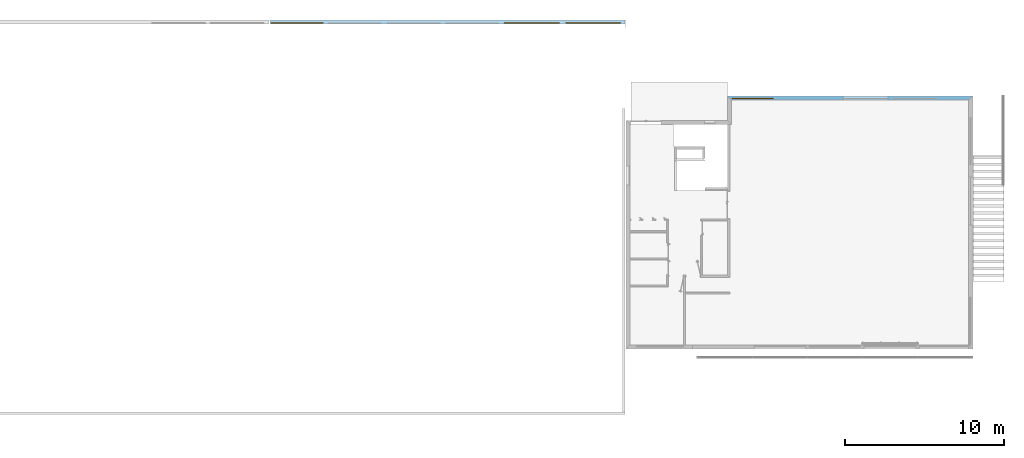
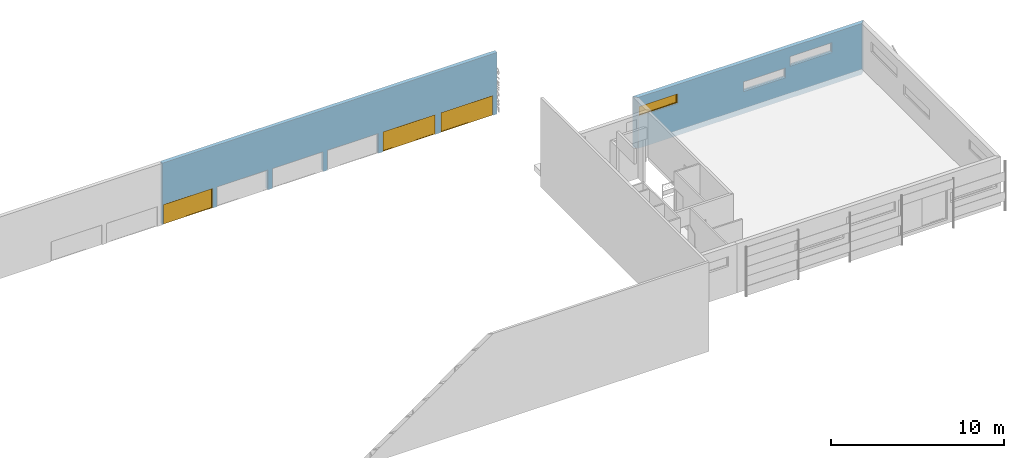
# One storey, part 11 of 14: 4 windows, 9 openings, plus 2 elements that do not belong to this part.
"""IFC2X3 building model written with IfcOpenShell, lengths in metres."""

from ifc_helpers import new_model, entity, si_unit, converted_unit, money_unit, direction, frame, origin_with_axes, place, context, subcontext, project, spatial, polyline, outline, extrude, open_shell, faceted_brep, surface_model, material, layer, layer_set, layer_usage, type_object, element, fill, save


model = new_model("IFC2X3")

# Units and contexts
model_context = context("Model", 3, precision=1e-05, world=origin_with_axes(), true_north=direction((0.0, 1.0)))
body_context = subcontext(model_context, "Body", "Model", "MODEL_VIEW")
ifc_project = project(units=[si_unit("LENGTHUNIT", "METRE"), si_unit("AREAUNIT", "SQUARE_METRE"), si_unit("VOLUMEUNIT", "CUBIC_METRE"), converted_unit("PLANEANGLEUNIT", "DEGREE", entity("IfcPlaneAngleMeasure", 0.0174532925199), si_unit("PLANEANGLEUNIT", "RADIAN"), dimensions=[0, 0, 0, 0, 0, 0, 0]), si_unit("SOLIDANGLEUNIT", "STERADIAN"), money_unit("EUR"), converted_unit("TIMEUNIT", "Year", entity("IfcTimeMeasure", 31556926.0), si_unit("TIMEUNIT", "SECOND"), dimensions=[0, 0, 0, 0, 0, 0, 0]), si_unit("MASSUNIT", "GRAM"), si_unit("THERMODYNAMICTEMPERATUREUNIT", "DEGREE_CELSIUS"), si_unit("LUMINOUSINTENSITYUNIT", "LUMEN")], contexts=[model_context])

# Site, building, storey
site_placement = place(None, origin_with_axes())
site = spatial("IfcSite", under=ifc_project, at=site_placement, Name="Site", CompositionType="ELEMENT")
building_placement = place(site_placement, origin_with_axes())
building = spatial("IfcBuilding", under=site, at=building_placement, Name="Bâtiment", CompositionType="ELEMENT")
storey_placement = place(building_placement, frame((0.0, 0.0, 3.0), z_axis=(0.0, 0.0, 1.0), x_axis=(1.0, 0.0, 0.0)))
storey = spatial("IfcBuildingStorey", under=building, at=storey_placement, Name="NIVEAU HAUT ENTRÉE", CompositionType="ELEMENT", Elevation=3.0)

# Wall, openings, window
ifc_material_1 = material(Name="Hachure solide* 2593434267")
ifc_layer_1 = layer(ifc_material_1, 0.16, ventilated="UNKNOWN")
ifc_material_2 = material(Name="Empty Fill 290923149")
ifc_layer_2 = layer(ifc_material_2, 0.08, ventilated="UNKNOWN")
ifc_material_3 = material(Name="Hachure solide* 3992800808")
ifc_layer_3 = layer(ifc_material_3, 0.02, ventilated="UNKNOWN")
ifc_layer_set_1 = layer_set([ifc_layer_1, ifc_layer_2, ifc_layer_3], Name="•GYMN 16+10 (1)")
ifc_layer_usage_1 = layer_usage(ifc_layer_set_1, "AXIS2", "POSITIVE", 0.0)
wall_type_1 = type_object("IfcWallType", Name="•GYMN 16+10 260", PredefinedType="NOTDEFINED")
wall_1_placement = place(storey_placement, frame((67.258457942, 21.758815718, -0.4), z_axis=(0.0, 0.0, 1.0), x_axis=(-1.0, 0.0, 0.0)))
wall_1 = element("IfcWallStandardCase", 1, at=wall_1_placement, inside=storey, type_object=wall_type_1, material=ifc_layer_usage_1, Name="Mur-002", context=body_context, shape_type="SweptSolid", body=[
    extrude(outline(polyline([(0.0, 0.0), (15.42, 0.0), (15.16, 0.26), (0.26, 0.26), (0.0, 0.0)])), origin_with_axes(), (0.0, 0.0, 1.0), 3.6),
])
opening_1_placement = place(wall_1_placement, frame((13.82, 0.0, 2.25), z_axis=(0.0, 0.0, 1.0), x_axis=(1.0, 0.0, 0.0)))
opening_1 = element("IfcOpeningElement", 2, at=opening_1_placement, cuts=wall_1, Name="Fen-027", context=body_context, shape_type="SweptSolid", body=[
    extrude(outline(polyline([(1.3, 0.7), (-1.3, 0.7), (-1.3, 0.0), (1.3, 0.0), (1.3, 0.7)])), frame((0.0, 0.18, 0.0), z_axis=(0.0, -1.0, 0.0), x_axis=(1.0, 0.0, 0.0)), (0.0, 0.0, 1.0), 0.44),
    extrude(outline(polyline([(1.3, 0.0), (-1.3, 0.0), (-1.3, -0.7), (1.3, -0.7), (1.3, 0.0)])), frame((0.0, 0.18, 0.0), z_axis=(0.0, 1.0, 0.0), x_axis=(1.0, 0.0, 0.0)), (0.0, 0.0, 1.0), 0.34),
])
opening_2_placement = place(wall_1_placement, frame((6.74191669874, 0.0, 1.55), z_axis=(0.0, 0.0, 1.0), x_axis=(1.0, 0.0, 0.0)))
element("IfcOpeningElement", 3, at=opening_2_placement, cuts=wall_1, Name="Fen-027", context=body_context, shape_type="SweptSolid", body=[
    extrude(outline(polyline([(1.4, 0.7), (-1.4, 0.7), (-1.4, 0.0), (1.4, 0.0), (1.4, 0.7)])), frame((0.0, 0.18, 0.0), z_axis=(0.0, -1.0, 0.0), x_axis=(1.0, 0.0, 0.0)), (0.0, 0.0, 1.0), 0.44),
    extrude(outline(polyline([(1.4, 0.0), (-1.4, 0.0), (-1.4, -0.7), (1.4, -0.7), (1.4, 0.0)])), frame((0.0, 0.18, 0.0), z_axis=(0.0, 1.0, 0.0), x_axis=(1.0, 0.0, 0.0)), (0.0, 0.0, 1.0), 0.34),
])
opening_3_placement = place(wall_1_placement, frame((3.63565172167, 0.0, 2.25), z_axis=(0.0, 0.0, 1.0), x_axis=(1.0, 0.0, 0.0)))
element("IfcOpeningElement", 4, at=opening_3_placement, cuts=wall_1, Name="Fen-027", context=body_context, shape_type="SweptSolid", body=[
    extrude(outline(polyline([(1.4, 0.7), (-1.4, 0.7), (-1.4, 0.0), (1.4, 0.0), (1.4, 0.7)])), frame((0.0, 0.18, 0.0), z_axis=(0.0, -1.0, 0.0), x_axis=(1.0, 0.0, 0.0)), (0.0, 0.0, 1.0), 0.44),
    extrude(outline(polyline([(1.4, 0.0), (-1.4, 0.0), (-1.4, -0.7), (1.4, -0.7), (1.4, 0.0)])), frame((0.0, 0.18, 0.0), z_axis=(0.0, 1.0, 0.0), x_axis=(1.0, 0.0, 0.0)), (0.0, 0.0, 1.0), 0.34),
])
ifc_material_4 = material(Name="Sans Trame")
window_style = type_object("IfcWindowStyle", Name="Fen bascule 1 10", ConstructionType="NOTDEFINED", OperationType="SINGLE_PANEL", ParameterTakesPrecedence=False, Sizeable=False)
window_1_placement = place(opening_1_placement, frame((-1.3, 0.0, 0.0), z_axis=(0.0, 0.0, 1.0), x_axis=(1.0, 0.0, 0.0)))
window_1 = element("IfcWindow", 5, at=window_1_placement, inside=storey, type_object=window_style, material=ifc_material_4, Name="Fen-027", OverallHeight=0.7, OverallWidth=2.6, context=body_context, shape_type="SurfaceModel", body=[
    faceted_brep([(2.58, 0.14, 0.66), (2.6, 0.14, 0.66), (2.6, 0.18, 0.66), (2.56, 0.18, 0.66), (2.56, 0.16, 0.66), (2.58, 0.16, 0.66), (2.58, 0.14, 0.04), (2.6, 0.14, 0.04), (2.6, 0.18, 0.04), (2.56, 0.18, 0.04), (2.56, 0.16, 0.04), (2.58, 0.16, 0.04)], [[[0, 1, 2, 3, 4, 5]], [[6, 7, 1, 0]], [[1, 7, 8, 2]], [[2, 8, 9, 3]], [[4, 3, 9, 10]], [[10, 11, 5, 4]], [[5, 11, 6, 0]], [[11, 10, 9, 8, 7, 6]]]),
    faceted_brep([(0.04, 0.16, 0.66), (0.04, 0.18, 0.66), (0.0, 0.18, 0.66), (0.0, 0.14, 0.66), (0.02, 0.14, 0.66), (0.02, 0.16, 0.66), (0.04, 0.16, 0.04), (0.04, 0.18, 0.04), (0.0, 0.18, 0.04), (0.0, 0.14, 0.04), (0.02, 0.14, 0.04), (0.02, 0.16, 0.04)], [[[0, 1, 2, 3, 4, 5]], [[6, 7, 1, 0]], [[8, 2, 1, 7]], [[9, 3, 2, 8]], [[4, 3, 9, 10]], [[10, 11, 5, 4]], [[5, 11, 6, 0]], [[11, 10, 9, 8, 7, 6]]]),
    faceted_brep([(2.58, 0.14, 0.66), (2.6, 0.14, 0.66), (2.6, 0.14, 0.7), (0.0, 0.14, 0.7), (0.0, 0.14, 0.66), (0.02, 0.14, 0.66), (0.02, 0.14, 0.68), (2.58, 0.14, 0.68), (2.58, 0.16, 0.66), (2.56, 0.16, 0.66), (2.56, 0.18, 0.66), (2.6, 0.18, 0.66), (2.6, 0.18, 0.7), (0.0, 0.18, 0.7), (0.0, 0.18, 0.66), (0.02, 0.16, 0.66), (0.04, 0.18, 0.66), (0.04, 0.16, 0.66), (0.02, 0.16, 0.68), (2.58, 0.16, 0.68)], [[[0, 1, 2, 3, 4, 5, 6, 7]], [[8, 9, 10, 11, 1, 0]], [[2, 1, 11, 12]], [[3, 2, 12, 13]], [[4, 3, 13, 14]], [[15, 5, 4, 14, 16, 17]], [[5, 15, 18, 6]], [[6, 18, 19, 7]], [[7, 19, 8, 0]], [[17, 9, 8, 19, 18, 15]], [[17, 16, 10, 9]], [[14, 13, 12, 11, 10, 16]]]),
    faceted_brep([(0.04, 0.16, 0.04), (0.04, 0.18, 0.04), (0.0, 0.18, 0.04), (0.0, 0.14, 0.04), (0.02, 0.14, 0.04), (0.02, 0.16, 0.04), (2.56, 0.16, 0.04), (2.56, 0.18, 0.04), (2.6, 0.18, 0.04), (2.6, 0.18, 0.0), (0.0, 0.18, 0.0), (0.0, 0.14, 0.0), (2.58, 0.14, 0.02), (0.02, 0.14, 0.02), (2.6, 0.14, 0.0), (2.6, 0.14, 0.04), (2.58, 0.14, 0.04), (0.02, 0.16, 0.02), (2.58, 0.16, 0.02), (2.58, 0.16, 0.04)], [[[0, 1, 2, 3, 4, 5]], [[6, 7, 1, 0]], [[8, 9, 10, 2, 1, 7]], [[11, 3, 2, 10]], [[12, 13, 4, 3, 11, 14, 15, 16]], [[13, 17, 5, 4]], [[5, 17, 18, 19, 6, 0]], [[19, 16, 15, 8, 7, 6]], [[15, 14, 9, 8]], [[14, 11, 10, 9]], [[12, 18, 17, 13]], [[19, 18, 12, 16]]]),
    faceted_brep([(0.06, 0.16, 0.06), (0.06, 0.16, 0.64), (0.06, 0.12, 0.64), (0.06, 0.12, 0.06), (0.02, 0.16, 0.06), (0.02, 0.16, 0.64), (0.02, 0.12, 0.64), (0.02, 0.12, 0.06)], [[[0, 1, 2, 3]], [[0, 4, 5, 1]], [[1, 5, 6, 2]], [[3, 2, 6, 7]], [[4, 0, 3, 7]], [[5, 4, 7, 6]]]),
    faceted_brep([(2.58, 0.16, 0.06), (2.58, 0.16, 0.64), (2.58, 0.12, 0.64), (2.58, 0.12, 0.06), (2.54, 0.16, 0.06), (2.54, 0.16, 0.64), (2.54, 0.12, 0.64), (2.54, 0.12, 0.06)], [[[0, 1, 2, 3]], [[0, 4, 5, 1]], [[1, 5, 6, 2]], [[3, 2, 6, 7]], [[4, 0, 3, 7]], [[5, 4, 7, 6]]]),
    faceted_brep([(2.58, 0.16, 0.02), (2.58, 0.16, 0.06), (2.58, 0.12, 0.06), (2.58, 0.12, 0.02), (0.02, 0.16, 0.02), (0.02, 0.16, 0.06), (0.06, 0.16, 0.06), (2.54, 0.16, 0.06), (2.54, 0.12, 0.06), (0.06, 0.12, 0.06), (0.02, 0.12, 0.06), (0.02, 0.12, 0.02)], [[[0, 1, 2, 3]], [[0, 4, 5, 6, 7, 1]], [[1, 7, 8, 2]], [[3, 2, 8, 9, 10, 11]], [[4, 0, 3, 11]], [[5, 4, 11, 10]], [[6, 5, 10, 9]], [[7, 6, 9, 8]]]),
    faceted_brep([(0.02, 0.16, 0.68), (0.02, 0.16, 0.64), (0.02, 0.12, 0.64), (0.02, 0.12, 0.68), (2.58, 0.16, 0.68), (2.58, 0.16, 0.64), (2.54, 0.16, 0.64), (0.06, 0.16, 0.64), (0.06, 0.12, 0.64), (2.54, 0.12, 0.64), (2.58, 0.12, 0.64), (2.58, 0.12, 0.68)], [[[0, 1, 2, 3]], [[0, 4, 5, 6, 7, 1]], [[1, 7, 8, 2]], [[3, 2, 8, 9, 10, 11]], [[4, 0, 3, 11]], [[5, 4, 11, 10]], [[6, 5, 10, 9]], [[7, 6, 9, 8]]]),
    surface_model("IfcShellBasedSurfaceModel", [(0.06, 0.15, 0.06), (0.06, 0.15, 0.64), (2.54, 0.15, 0.64), (2.54, 0.15, 0.06)], [open_shell([[[0, 1, 2, 3]]])]),
    surface_model("IfcShellBasedSurfaceModel", [(0.06, 0.13, 0.06), (2.54, 0.13, 0.06), (2.54, 0.13, 0.64), (0.06, 0.13, 0.64)], [open_shell([[[0, 1, 2, 3]]])]),
])
fill(opening_1, window_1)

# Wall, openings, windows
ifc_material_5 = material(Name="Hachure solide* 1842511997")
ifc_layer_4 = layer(ifc_material_5, 0.1, ventilated="UNKNOWN")
ifc_material_6 = material(Name="Isolation 347608549")
ifc_layer_5 = layer(ifc_material_6, 0.12, ventilated="UNKNOWN")
ifc_material_7 = material(Name="Hachure solide* 398427698")
ifc_layer_6 = layer(ifc_material_7, 0.02, ventilated="UNKNOWN")
ifc_layer_set_2 = layer_set([ifc_layer_4, ifc_layer_5, ifc_layer_6], Name="•GYMN PANNEAU 1 0232896968")
ifc_layer_usage_2 = layer_usage(ifc_layer_set_2, "AXIS2", "POSITIVE", -0.24)
wall_type_2 = type_object("IfcWallType", Name="•GYMN PANNEAU 1 0232896968 240", PredefinedType="NOTDEFINED")
wall_2_placement = place(storey_placement, frame((23.108457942, 26.5291158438, 1.46), z_axis=(0.0, 0.0, 1.0), x_axis=(1.0, 0.0, 0.0)))
wall_2 = element("IfcWallStandardCase", 6, at=wall_2_placement, inside=storey, type_object=wall_type_2, material=ifc_layer_usage_2, Name="Mur-003", context=body_context, shape_type="SweptSolid", body=[
    extrude(outline(polyline([(0.0, -0.24), (22.31, -0.24), (22.31, 0.0), (0.0, 0.0), (0.0, -0.24)])), origin_with_axes(), (0.0, 0.0, 1.0), 4.35),
])
opening_4_placement = place(wall_2_placement, frame((16.4434939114, 0.0, 0.0), z_axis=(0.0, 0.0, 1.0), x_axis=(1.0, 0.0, 0.0)))
opening_4 = element("IfcOpeningElement", 7, at=opening_4_placement, cuts=wall_2, Name="Fen-028", context=body_context, shape_type="SweptSolid", body=[
    extrude(outline(polyline([(1.75, 0.0), (-1.75, 0.0), (-1.75, -1.405702), (1.75, -1.405702), (1.75, 0.0)])), frame((0.0, -0.16, 0.0), z_axis=(0.0, 1.0, 0.0), x_axis=(1.0, 0.0, 0.0)), (0.0, 0.0, 1.0), 0.4),
    extrude(outline(polyline([(1.75, 1.405702), (-1.75, 1.405702), (-1.75, 0.0), (1.75, 0.0), (1.75, 1.405702)])), frame((0.0, -0.16, 0.0), z_axis=(0.0, -1.0, 0.0), x_axis=(1.0, 0.0, 0.0)), (0.0, 0.0, 1.0), 0.32),
])
opening_5_placement = place(wall_2_placement, frame((12.6934939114, 0.0, 0.0), z_axis=(0.0, 0.0, 1.0), x_axis=(1.0, 0.0, 0.0)))
element("IfcOpeningElement", 8, at=opening_5_placement, cuts=wall_2, Name="Fen-028", context=body_context, shape_type="SweptSolid", body=[
    extrude(outline(polyline([(1.7, 0.0), (-1.7, 0.0), (-1.7, -1.405702), (1.7, -1.405702), (1.7, 0.0)])), frame((0.0, -0.16, 0.0), z_axis=(0.0, 1.0, 0.0), x_axis=(1.0, 0.0, 0.0)), (0.0, 0.0, 1.0), 0.4),
    extrude(outline(polyline([(1.7, 1.405702), (-1.7, 1.405702), (-1.7, 0.0), (1.7, 0.0), (1.7, 1.405702)])), frame((0.0, -0.16, 0.0), z_axis=(0.0, -1.0, 0.0), x_axis=(1.0, 0.0, 0.0)), (0.0, 0.0, 1.0), 0.32),
])
opening_6_placement = place(wall_2_placement, frame((9.01682724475, 0.0, 0.0), z_axis=(0.0, 0.0, 1.0), x_axis=(1.0, 0.0, 0.0)))
element("IfcOpeningElement", 9, at=opening_6_placement, cuts=wall_2, Name="Fen-028", context=body_context, shape_type="SweptSolid", body=[
    extrude(outline(polyline([(1.7, 0.0), (-1.7, 0.0), (-1.7, -1.405702), (1.7, -1.405702), (1.7, 0.0)])), frame((0.0, -0.16, 0.0), z_axis=(0.0, 1.0, 0.0), x_axis=(1.0, 0.0, 0.0)), (0.0, 0.0, 1.0), 0.4),
    extrude(outline(polyline([(1.7, 1.405702), (-1.7, 1.405702), (-1.7, 0.0), (1.7, 0.0), (1.7, 1.405702)])), frame((0.0, -0.16, 0.0), z_axis=(0.0, -1.0, 0.0), x_axis=(1.0, 0.0, 0.0)), (0.0, 0.0, 1.0), 0.32),
])
opening_7_placement = place(wall_2_placement, frame((5.31682724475, 0.0, 0.0), z_axis=(0.0, 0.0, 1.0), x_axis=(1.0, 0.0, 0.0)))
element("IfcOpeningElement", 10, at=opening_7_placement, cuts=wall_2, Name="Fen-028", context=body_context, shape_type="SweptSolid", body=[
    extrude(outline(polyline([(1.7, 0.0), (-1.7, 0.0), (-1.7, -1.405702), (1.7, -1.405702), (1.7, 0.0)])), frame((0.0, -0.16, 0.0), z_axis=(0.0, 1.0, 0.0), x_axis=(1.0, 0.0, 0.0)), (0.0, 0.0, 1.0), 0.4),
    extrude(outline(polyline([(1.7, 1.405702), (-1.7, 1.405702), (-1.7, 0.0), (1.7, 0.0), (1.7, 1.405702)])), frame((0.0, -0.16, 0.0), z_axis=(0.0, -1.0, 0.0), x_axis=(1.0, 0.0, 0.0)), (0.0, 0.0, 1.0), 0.32),
])
opening_8_placement = place(wall_2_placement, frame((1.7, 0.0, 0.0), z_axis=(0.0, 0.0, 1.0), x_axis=(1.0, 0.0, 0.0)))
opening_8 = element("IfcOpeningElement", 11, at=opening_8_placement, cuts=wall_2, Name="Fen-028", context=body_context, shape_type="SweptSolid", body=[
    extrude(outline(polyline([(1.65, 0.0), (-1.65, 0.0), (-1.65, -1.405702), (1.65, -1.405702), (1.65, 0.0)])), frame((0.0, -0.16, 0.0), z_axis=(0.0, 1.0, 0.0), x_axis=(1.0, 0.0, 0.0)), (0.0, 0.0, 1.0), 0.4),
    extrude(outline(polyline([(1.65, 1.405702), (-1.65, 1.405702), (-1.65, 0.0), (1.65, 0.0), (1.65, 1.405702)])), frame((0.0, -0.16, 0.0), z_axis=(0.0, -1.0, 0.0), x_axis=(1.0, 0.0, 0.0)), (0.0, 0.0, 1.0), 0.32),
])
opening_9_placement = place(wall_2_placement, frame((20.3078718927, 0.0, 0.0), z_axis=(0.0, 0.0, 1.0), x_axis=(1.0, 0.0, 0.0)))
opening_9 = element("IfcOpeningElement", 12, at=opening_9_placement, cuts=wall_2, Name="Fen-028", context=body_context, shape_type="SweptSolid", body=[
    extrude(outline(polyline([(-1.737872, 0.0), (-1.737872, -1.405702), (1.737872, -1.405702), (1.737872, 0.0), (-1.737872, 0.0)])), frame((0.0, -0.16, 0.0), z_axis=(0.0, 1.0, 0.0), x_axis=(1.0, 0.0, 0.0)), (0.0, 0.0, 1.0), 0.4),
    extrude(outline(polyline([(-1.737872, 1.405702), (-1.737872, 0.0), (1.737872, 0.0), (1.737872, 1.405702), (-1.737872, 1.405702)])), frame((0.0, -0.16, 0.0), z_axis=(0.0, -1.0, 0.0), x_axis=(1.0, 0.0, 0.0)), (0.0, 0.0, 1.0), 0.32),
])
window_2_placement = place(opening_4_placement, frame((-1.75, 0.0, 0.0), z_axis=(0.0, 0.0, 1.0), x_axis=(1.0, 0.0, 0.0)))
window_2 = element("IfcWindow", 13, at=window_2_placement, inside=storey, type_object=window_style, material=ifc_material_4, Name="Fen-028", OverallHeight=1.4057, OverallWidth=3.5, context=body_context, shape_type="SurfaceModel", body=[
    faceted_brep([(3.48, -0.2, 1.365702), (3.5, -0.2, 1.365702), (3.5, -0.16, 1.365702), (3.46, -0.16, 1.365702), (3.46, -0.18, 1.365702), (3.48, -0.18, 1.365702), (3.48, -0.2, 0.039999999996), (3.5, -0.2, 0.039999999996), (3.5, -0.16, 0.039999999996), (3.46, -0.16, 0.039999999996), (3.46, -0.18, 0.039999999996), (3.48, -0.18, 0.039999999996)], [[[0, 1, 2, 3, 4, 5]], [[6, 7, 1, 0]], [[1, 7, 8, 2]], [[2, 8, 9, 3]], [[4, 3, 9, 10]], [[10, 11, 5, 4]], [[5, 11, 6, 0]], [[11, 10, 9, 8, 7, 6]]]),
    faceted_brep([(0.04, -0.18, 1.365702), (0.04, -0.16, 1.365702), (0.0, -0.16, 1.365702), (0.0, -0.2, 1.365702), (0.02, -0.2, 1.365702), (0.02, -0.18, 1.365702), (0.04, -0.18, 0.039999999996), (0.04, -0.16, 0.039999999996), (0.0, -0.16, 0.039999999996), (0.0, -0.2, 0.039999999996), (0.02, -0.2, 0.039999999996), (0.02, -0.18, 0.039999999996)], [[[0, 1, 2, 3, 4, 5]], [[6, 7, 1, 0]], [[8, 2, 1, 7]], [[9, 3, 2, 8]], [[4, 3, 9, 10]], [[10, 11, 5, 4]], [[5, 11, 6, 0]], [[11, 10, 9, 8, 7, 6]]]),
    faceted_brep([(3.48, -0.2, 1.365702), (3.5, -0.2, 1.365702), (3.5, -0.2, 1.405702), (0.0, -0.2, 1.405702), (0.0, -0.2, 1.365702), (0.02, -0.2, 1.365702), (0.02, -0.2, 1.385702), (3.48, -0.2, 1.385702), (3.48, -0.18, 1.365702), (3.46, -0.18, 1.365702), (3.46, -0.16, 1.365702), (3.5, -0.16, 1.365702), (3.5, -0.16, 1.405702), (0.0, -0.16, 1.405702), (0.0, -0.16, 1.365702), (0.02, -0.18, 1.365702), (0.04, -0.16, 1.365702), (0.04, -0.18, 1.365702), (0.02, -0.18, 1.385702), (3.48, -0.18, 1.385702)], [[[0, 1, 2, 3, 4, 5, 6, 7]], [[8, 9, 10, 11, 1, 0]], [[2, 1, 11, 12]], [[3, 2, 12, 13]], [[4, 3, 13, 14]], [[15, 5, 4, 14, 16, 17]], [[5, 15, 18, 6]], [[6, 18, 19, 7]], [[7, 19, 8, 0]], [[17, 9, 8, 19, 18, 15]], [[17, 16, 10, 9]], [[14, 13, 12, 11, 10, 16]]]),
    faceted_brep([(0.04, -0.18, 0.039999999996), (0.04, -0.16, 0.039999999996), (0.0, -0.16, 0.039999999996), (0.0, -0.2, 0.039999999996), (0.02, -0.2, 0.039999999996), (0.02, -0.18, 0.039999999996), (3.46, -0.18, 0.039999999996), (3.46, -0.16, 0.039999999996), (3.5, -0.16, 0.039999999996), (3.5, -0.16, 0.0), (0.0, -0.16, 0.0), (0.0, -0.2, 0.0), (3.48, -0.2, 0.019999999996), (0.02, -0.2, 0.019999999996), (3.5, -0.2, 0.0), (3.5, -0.2, 0.039999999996), (3.48, -0.2, 0.039999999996), (0.02, -0.18, 0.019999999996), (3.48, -0.18, 0.019999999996), (3.48, -0.18, 0.039999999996)], [[[0, 1, 2, 3, 4, 5]], [[6, 7, 1, 0]], [[8, 9, 10, 2, 1, 7]], [[11, 3, 2, 10]], [[12, 13, 4, 3, 11, 14, 15, 16]], [[13, 17, 5, 4]], [[5, 17, 18, 19, 6, 0]], [[19, 16, 15, 8, 7, 6]], [[15, 14, 9, 8]], [[14, 11, 10, 9]], [[12, 18, 17, 13]], [[19, 18, 12, 16]]]),
    faceted_brep([(0.06, -0.18, 0.059999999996), (0.06, -0.18, 1.345702), (0.06, -0.22, 1.345702), (0.06, -0.22, 0.059999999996), (0.02, -0.18, 0.059999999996), (0.02, -0.18, 1.345702), (0.02, -0.22, 1.345702), (0.02, -0.22, 0.059999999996)], [[[0, 1, 2, 3]], [[0, 4, 5, 1]], [[1, 5, 6, 2]], [[3, 2, 6, 7]], [[4, 0, 3, 7]], [[5, 4, 7, 6]]]),
    faceted_brep([(3.48, -0.18, 0.059999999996), (3.48, -0.18, 1.345702), (3.48, -0.22, 1.345702), (3.48, -0.22, 0.059999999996), (3.44, -0.18, 0.059999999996), (3.44, -0.18, 1.345702), (3.44, -0.22, 1.345702), (3.44, -0.22, 0.059999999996)], [[[0, 1, 2, 3]], [[0, 4, 5, 1]], [[1, 5, 6, 2]], [[3, 2, 6, 7]], [[4, 0, 3, 7]], [[5, 4, 7, 6]]]),
    faceted_brep([(3.48, -0.18, 0.019999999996), (3.48, -0.18, 0.059999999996), (3.48, -0.22, 0.059999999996), (3.48, -0.22, 0.019999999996), (0.02, -0.18, 0.019999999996), (0.02, -0.18, 0.059999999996), (0.06, -0.18, 0.059999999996), (3.44, -0.18, 0.059999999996), (3.44, -0.22, 0.059999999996), (0.06, -0.22, 0.059999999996), (0.02, -0.22, 0.059999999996), (0.02, -0.22, 0.019999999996)], [[[0, 1, 2, 3]], [[0, 4, 5, 6, 7, 1]], [[1, 7, 8, 2]], [[3, 2, 8, 9, 10, 11]], [[4, 0, 3, 11]], [[5, 4, 11, 10]], [[6, 5, 10, 9]], [[7, 6, 9, 8]]]),
    faceted_brep([(0.02, -0.18, 1.385702), (0.02, -0.18, 1.345702), (0.02, -0.22, 1.345702), (0.02, -0.22, 1.385702), (3.48, -0.18, 1.385702), (3.48, -0.18, 1.345702), (3.44, -0.18, 1.345702), (0.06, -0.18, 1.345702), (0.06, -0.22, 1.345702), (3.44, -0.22, 1.345702), (3.48, -0.22, 1.345702), (3.48, -0.22, 1.385702)], [[[0, 1, 2, 3]], [[0, 4, 5, 6, 7, 1]], [[1, 7, 8, 2]], [[3, 2, 8, 9, 10, 11]], [[4, 0, 3, 11]], [[5, 4, 11, 10]], [[6, 5, 10, 9]], [[7, 6, 9, 8]]]),
    surface_model("IfcShellBasedSurfaceModel", [(0.06, -0.19, 0.059999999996), (0.06, -0.19, 1.345702), (3.44, -0.19, 1.345702), (3.44, -0.19, 0.059999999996)], [open_shell([[[0, 1, 2, 3]]])]),
    surface_model("IfcShellBasedSurfaceModel", [(0.06, -0.21, 0.059999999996), (3.44, -0.21, 0.059999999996), (3.44, -0.21, 1.345702), (0.06, -0.21, 1.345702)], [open_shell([[[0, 1, 2, 3]]])]),
])
fill(opening_4, window_2)
window_3_placement = place(opening_8_placement, frame((-1.65, 0.0, 0.0), z_axis=(0.0, 0.0, 1.0), x_axis=(1.0, 0.0, 0.0)))
window_3 = element("IfcWindow", 14, at=window_3_placement, inside=storey, type_object=window_style, material=ifc_material_4, Name="Fen-028", OverallHeight=1.4057, OverallWidth=3.3, context=body_context, shape_type="SurfaceModel", body=[
    faceted_brep([(3.28, -0.2, 1.365702), (3.3, -0.2, 1.365702), (3.3, -0.16, 1.365702), (3.26, -0.16, 1.365702), (3.26, -0.18, 1.365702), (3.28, -0.18, 1.365702), (3.28, -0.2, 0.039999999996), (3.3, -0.2, 0.039999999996), (3.3, -0.16, 0.039999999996), (3.26, -0.16, 0.039999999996), (3.26, -0.18, 0.039999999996), (3.28, -0.18, 0.039999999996)], [[[0, 1, 2, 3, 4, 5]], [[6, 7, 1, 0]], [[1, 7, 8, 2]], [[2, 8, 9, 3]], [[4, 3, 9, 10]], [[10, 11, 5, 4]], [[5, 11, 6, 0]], [[11, 10, 9, 8, 7, 6]]]),
    faceted_brep([(0.04, -0.18, 1.365702), (0.04, -0.16, 1.365702), (0.0, -0.16, 1.365702), (0.0, -0.2, 1.365702), (0.02, -0.2, 1.365702), (0.02, -0.18, 1.365702), (0.04, -0.18, 0.039999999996), (0.04, -0.16, 0.039999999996), (0.0, -0.16, 0.039999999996), (0.0, -0.2, 0.039999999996), (0.02, -0.2, 0.039999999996), (0.02, -0.18, 0.039999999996)], [[[0, 1, 2, 3, 4, 5]], [[6, 7, 1, 0]], [[8, 2, 1, 7]], [[9, 3, 2, 8]], [[4, 3, 9, 10]], [[10, 11, 5, 4]], [[5, 11, 6, 0]], [[11, 10, 9, 8, 7, 6]]]),
    faceted_brep([(3.28, -0.2, 1.365702), (3.3, -0.2, 1.365702), (3.3, -0.2, 1.405702), (0.0, -0.2, 1.405702), (0.0, -0.2, 1.365702), (0.02, -0.2, 1.365702), (0.02, -0.2, 1.385702), (3.28, -0.2, 1.385702), (3.28, -0.18, 1.365702), (3.26, -0.18, 1.365702), (3.26, -0.16, 1.365702), (3.3, -0.16, 1.365702), (3.3, -0.16, 1.405702), (0.0, -0.16, 1.405702), (0.0, -0.16, 1.365702), (0.02, -0.18, 1.365702), (0.04, -0.16, 1.365702), (0.04, -0.18, 1.365702), (0.02, -0.18, 1.385702), (3.28, -0.18, 1.385702)], [[[0, 1, 2, 3, 4, 5, 6, 7]], [[8, 9, 10, 11, 1, 0]], [[2, 1, 11, 12]], [[3, 2, 12, 13]], [[4, 3, 13, 14]], [[15, 5, 4, 14, 16, 17]], [[5, 15, 18, 6]], [[6, 18, 19, 7]], [[7, 19, 8, 0]], [[17, 9, 8, 19, 18, 15]], [[17, 16, 10, 9]], [[14, 13, 12, 11, 10, 16]]]),
    faceted_brep([(0.04, -0.18, 0.039999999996), (0.04, -0.16, 0.039999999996), (0.0, -0.16, 0.039999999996), (0.0, -0.2, 0.039999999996), (0.02, -0.2, 0.039999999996), (0.02, -0.18, 0.039999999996), (3.26, -0.18, 0.039999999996), (3.26, -0.16, 0.039999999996), (3.3, -0.16, 0.039999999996), (3.3, -0.16, 0.0), (0.0, -0.16, 0.0), (0.0, -0.2, 0.0), (3.28, -0.2, 0.019999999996), (0.02, -0.2, 0.019999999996), (3.3, -0.2, 0.0), (3.3, -0.2, 0.039999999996), (3.28, -0.2, 0.039999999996), (0.02, -0.18, 0.019999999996), (3.28, -0.18, 0.019999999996), (3.28, -0.18, 0.039999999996)], [[[0, 1, 2, 3, 4, 5]], [[6, 7, 1, 0]], [[8, 9, 10, 2, 1, 7]], [[11, 3, 2, 10]], [[12, 13, 4, 3, 11, 14, 15, 16]], [[13, 17, 5, 4]], [[5, 17, 18, 19, 6, 0]], [[19, 16, 15, 8, 7, 6]], [[15, 14, 9, 8]], [[14, 11, 10, 9]], [[12, 18, 17, 13]], [[19, 18, 12, 16]]]),
    faceted_brep([(0.06, -0.18, 0.059999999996), (0.06, -0.18, 1.345702), (0.06, -0.22, 1.345702), (0.06, -0.22, 0.059999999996), (0.02, -0.18, 0.059999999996), (0.02, -0.18, 1.345702), (0.02, -0.22, 1.345702), (0.02, -0.22, 0.059999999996)], [[[0, 1, 2, 3]], [[0, 4, 5, 1]], [[1, 5, 6, 2]], [[3, 2, 6, 7]], [[4, 0, 3, 7]], [[5, 4, 7, 6]]]),
    faceted_brep([(3.28, -0.18, 0.059999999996), (3.28, -0.18, 1.345702), (3.28, -0.22, 1.345702), (3.28, -0.22, 0.059999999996), (3.24, -0.18, 0.059999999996), (3.24, -0.18, 1.345702), (3.24, -0.22, 1.345702), (3.24, -0.22, 0.059999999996)], [[[0, 1, 2, 3]], [[0, 4, 5, 1]], [[1, 5, 6, 2]], [[3, 2, 6, 7]], [[4, 0, 3, 7]], [[5, 4, 7, 6]]]),
    faceted_brep([(3.28, -0.18, 0.019999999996), (3.28, -0.18, 0.059999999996), (3.28, -0.22, 0.059999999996), (3.28, -0.22, 0.019999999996), (0.02, -0.18, 0.019999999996), (0.02, -0.18, 0.059999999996), (0.06, -0.18, 0.059999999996), (3.24, -0.18, 0.059999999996), (3.24, -0.22, 0.059999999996), (0.06, -0.22, 0.059999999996), (0.02, -0.22, 0.059999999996), (0.02, -0.22, 0.019999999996)], [[[0, 1, 2, 3]], [[0, 4, 5, 6, 7, 1]], [[1, 7, 8, 2]], [[3, 2, 8, 9, 10, 11]], [[4, 0, 3, 11]], [[5, 4, 11, 10]], [[6, 5, 10, 9]], [[7, 6, 9, 8]]]),
    faceted_brep([(0.02, -0.18, 1.385702), (0.02, -0.18, 1.345702), (0.02, -0.22, 1.345702), (0.02, -0.22, 1.385702), (3.28, -0.18, 1.385702), (3.28, -0.18, 1.345702), (3.24, -0.18, 1.345702), (0.06, -0.18, 1.345702), (0.06, -0.22, 1.345702), (3.24, -0.22, 1.345702), (3.28, -0.22, 1.345702), (3.28, -0.22, 1.385702)], [[[0, 1, 2, 3]], [[0, 4, 5, 6, 7, 1]], [[1, 7, 8, 2]], [[3, 2, 8, 9, 10, 11]], [[4, 0, 3, 11]], [[5, 4, 11, 10]], [[6, 5, 10, 9]], [[7, 6, 9, 8]]]),
    surface_model("IfcShellBasedSurfaceModel", [(0.06, -0.19, 0.059999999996), (0.06, -0.19, 1.345702), (3.24, -0.19, 1.345702), (3.24, -0.19, 0.059999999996)], [open_shell([[[0, 1, 2, 3]]])]),
    surface_model("IfcShellBasedSurfaceModel", [(0.06, -0.21, 0.059999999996), (3.24, -0.21, 0.059999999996), (3.24, -0.21, 1.345702), (0.06, -0.21, 1.345702)], [open_shell([[[0, 1, 2, 3]]])]),
])
fill(opening_8, window_3)
window_4_placement = place(opening_9_placement, frame((-1.73787189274, 0.0, 0.0), z_axis=(0.0, 0.0, 1.0), x_axis=(1.0, 0.0, 0.0)))
window_4 = element("IfcWindow", 15, at=window_4_placement, inside=storey, type_object=window_style, material=ifc_material_4, Name="Fen-028", OverallHeight=1.4057, OverallWidth=3.47574, context=body_context, shape_type="SurfaceModel", body=[
    faceted_brep([(0.019999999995, -0.2, 1.365702), (0.019999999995, -0.18, 1.365702), (0.039999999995, -0.18, 1.365702), (0.039999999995, -0.16, 1.365702), (0.0, -0.16, 1.365702), (0.0, -0.2, 1.365702), (0.019999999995, -0.2, 0.039999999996), (0.019999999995, -0.18, 0.039999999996), (0.039999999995, -0.18, 0.039999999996), (0.039999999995, -0.16, 0.039999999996), (0.0, -0.16, 0.039999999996), (0.0, -0.2, 0.039999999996)], [[[0, 1, 2, 3, 4, 5]], [[1, 0, 6, 7]], [[8, 2, 1, 7]], [[2, 8, 9, 3]], [[4, 3, 9, 10]], [[5, 4, 10, 11]], [[6, 0, 5, 11]], [[7, 6, 11, 10, 9, 8]]]),
    faceted_brep([(3.43574399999, -0.18, 1.365702), (3.455744, -0.18, 1.365702), (3.455744, -0.2, 1.365702), (3.47574399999, -0.2, 1.365702), (3.47574399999, -0.16, 1.365702), (3.43574399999, -0.16, 1.365702), (3.43574399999, -0.18, 0.039999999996), (3.455744, -0.18, 0.039999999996), (3.455744, -0.2, 0.039999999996), (3.47574399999, -0.2, 0.039999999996), (3.47574399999, -0.16, 0.039999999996), (3.43574399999, -0.16, 0.039999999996)], [[[0, 1, 2, 3, 4, 5]], [[1, 0, 6, 7]], [[8, 2, 1, 7]], [[2, 8, 9, 3]], [[9, 10, 4, 3]], [[10, 11, 5, 4]], [[6, 0, 5, 11]], [[7, 6, 11, 10, 9, 8]]]),
    faceted_brep([(0.019999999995, -0.2, 1.365702), (0.019999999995, -0.2, 1.385702), (3.455744, -0.2, 1.385702), (3.455744, -0.2, 1.365702), (3.47574399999, -0.2, 1.365702), (3.47574399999, -0.2, 1.405702), (0.0, -0.2, 1.405702), (0.0, -0.2, 1.365702), (0.019999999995, -0.18, 1.365702), (0.019999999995, -0.18, 1.385702), (3.455744, -0.18, 1.385702), (3.455744, -0.18, 1.365702), (3.43574399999, -0.18, 1.365702), (3.43574399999, -0.16, 1.365702), (3.47574399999, -0.16, 1.365702), (3.47574399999, -0.16, 1.405702), (0.0, -0.16, 1.405702), (0.0, -0.16, 1.365702), (0.039999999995, -0.16, 1.365702), (0.039999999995, -0.18, 1.365702)], [[[0, 1, 2, 3, 4, 5, 6, 7]], [[1, 0, 8, 9]], [[2, 1, 9, 10]], [[3, 2, 10, 11]], [[11, 12, 13, 14, 4, 3]], [[4, 14, 15, 5]], [[5, 15, 16, 6]], [[6, 16, 17, 7]], [[8, 0, 7, 17, 18, 19]], [[12, 11, 10, 9, 8, 19]], [[12, 19, 18, 13]], [[14, 13, 18, 17, 16, 15]]]),
    faceted_brep([(3.43574399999, -0.18, 0.039999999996), (3.455744, -0.18, 0.039999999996), (3.455744, -0.2, 0.039999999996), (3.47574399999, -0.2, 0.039999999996), (3.47574399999, -0.16, 0.039999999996), (3.43574399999, -0.16, 0.039999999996), (0.039999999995, -0.18, 0.039999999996), (0.019999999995, -0.18, 0.039999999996), (0.019999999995, -0.18, 0.019999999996), (3.455744, -0.18, 0.019999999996), (3.455744, -0.2, 0.019999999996), (0.019999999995, -0.2, 0.019999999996), (0.019999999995, -0.2, 0.039999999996), (0.0, -0.2, 0.039999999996), (0.0, -0.2, 0.0), (3.47574399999, -0.2, 0.0), (3.47574399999, -0.16, 0.0), (0.0, -0.16, 0.039999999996), (0.039999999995, -0.16, 0.039999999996), (0.0, -0.16, 0.0)], [[[0, 1, 2, 3, 4, 5]], [[1, 0, 6, 7, 8, 9]], [[10, 2, 1, 9]], [[11, 12, 13, 14, 15, 3, 2, 10]], [[15, 16, 4, 3]], [[17, 18, 5, 4, 16, 19]], [[6, 0, 5, 18]], [[7, 6, 18, 17, 13, 12]], [[7, 12, 11, 8]], [[11, 10, 9, 8]], [[13, 17, 19, 14]], [[14, 19, 16, 15]]]),
    faceted_brep([(3.415744, -0.18, 0.059999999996), (3.415744, -0.22, 0.059999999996), (3.415744, -0.22, 1.345702), (3.415744, -0.18, 1.345702), (3.455744, -0.18, 0.059999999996), (3.455744, -0.22, 0.059999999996), (3.455744, -0.22, 1.345702), (3.455744, -0.18, 1.345702)], [[[0, 1, 2, 3]], [[4, 5, 1, 0]], [[1, 5, 6, 2]], [[3, 2, 6, 7]], [[0, 3, 7, 4]], [[7, 6, 5, 4]]]),
    faceted_brep([(0.019999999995, -0.18, 0.059999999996), (0.019999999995, -0.22, 0.059999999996), (0.019999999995, -0.22, 1.345702), (0.019999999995, -0.18, 1.345702), (0.059999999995, -0.18, 0.059999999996), (0.059999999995, -0.22, 0.059999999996), (0.059999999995, -0.22, 1.345702), (0.059999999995, -0.18, 1.345702)], [[[0, 1, 2, 3]], [[4, 5, 1, 0]], [[1, 5, 6, 2]], [[3, 2, 6, 7]], [[0, 3, 7, 4]], [[7, 6, 5, 4]]]),
    faceted_brep([(0.019999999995, -0.18, 0.019999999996), (0.019999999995, -0.22, 0.019999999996), (0.019999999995, -0.22, 0.059999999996), (0.019999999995, -0.18, 0.059999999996), (3.455744, -0.18, 0.019999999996), (3.455744, -0.22, 0.019999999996), (3.455744, -0.22, 0.059999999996), (3.415744, -0.22, 0.059999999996), (0.059999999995, -0.22, 0.059999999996), (0.059999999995, -0.18, 0.059999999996), (3.415744, -0.18, 0.059999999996), (3.455744, -0.18, 0.059999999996)], [[[0, 1, 2, 3]], [[4, 5, 1, 0]], [[1, 5, 6, 7, 8, 2]], [[3, 2, 8, 9]], [[0, 3, 9, 10, 11, 4]], [[11, 6, 5, 4]], [[10, 7, 6, 11]], [[9, 8, 7, 10]]]),
    faceted_brep([(3.455744, -0.18, 1.385702), (3.455744, -0.22, 1.385702), (3.455744, -0.22, 1.345702), (3.455744, -0.18, 1.345702), (0.019999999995, -0.18, 1.385702), (0.019999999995, -0.22, 1.385702), (0.019999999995, -0.22, 1.345702), (0.059999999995, -0.22, 1.345702), (3.415744, -0.22, 1.345702), (3.415744, -0.18, 1.345702), (0.059999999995, -0.18, 1.345702), (0.019999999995, -0.18, 1.345702)], [[[0, 1, 2, 3]], [[4, 5, 1, 0]], [[1, 5, 6, 7, 8, 2]], [[3, 2, 8, 9]], [[0, 3, 9, 10, 11, 4]], [[11, 6, 5, 4]], [[10, 7, 6, 11]], [[9, 8, 7, 10]]]),
    surface_model("IfcShellBasedSurfaceModel", [(3.415744, -0.19, 0.059999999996), (0.059999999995, -0.19, 0.059999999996), (0.059999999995, -0.19, 1.345702), (3.415744, -0.19, 1.345702)], [open_shell([[[0, 1, 2, 3]]])]),
    surface_model("IfcShellBasedSurfaceModel", [(3.415744, -0.21, 0.059999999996), (3.415744, -0.21, 1.345702), (0.059999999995, -0.21, 1.345702), (0.059999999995, -0.21, 0.059999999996)], [open_shell([[[0, 1, 2, 3]]])]),
])
fill(opening_9, window_4)

save(model, "model.ifc")
